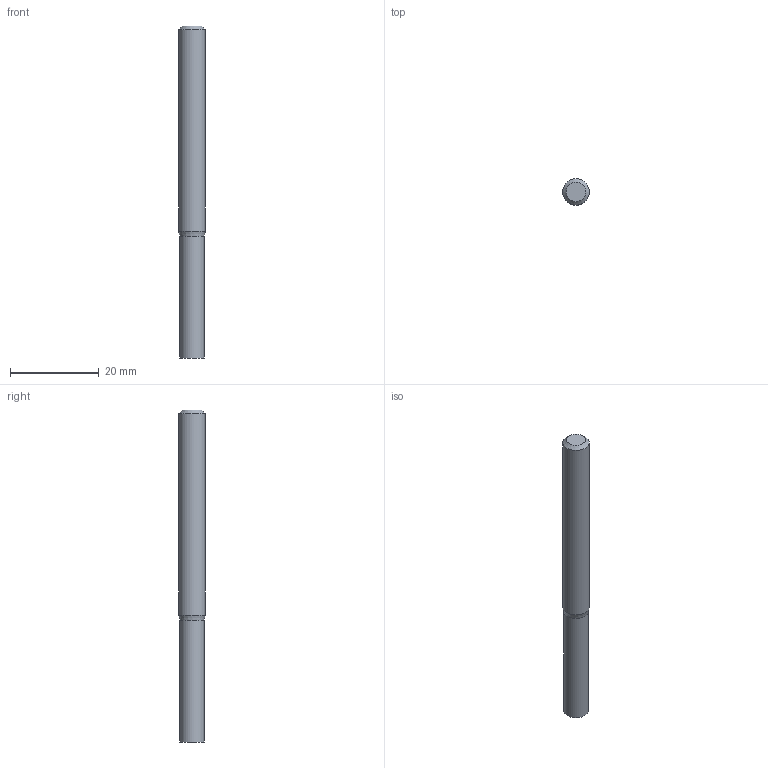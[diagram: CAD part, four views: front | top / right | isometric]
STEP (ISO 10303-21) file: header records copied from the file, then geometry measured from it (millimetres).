
FILE_DESCRIPTION((''),'2;1');
FILE_NAME('C:\Users\nsx150\AppData\Local\Temp\Mastercam 2021\E36A1X9CCL\TEMP.step','2023-04-21T15:28:18',(''),(''),'STEP Write','Mastercam 2021 ... CNC Software, Inc.','');
FILE_SCHEMA(('AUTOMOTIVE_DESIGN'));
Length unit declared in the file: millimetre
Products named in the file (1): None
Bounding box: 6 x 6 x 75 mm (x, y, z)
Volume: 1988.2 mm3; surface area: 1460 mm2
Topology: 2 solids, 2 shells, 8 faces, 10 edges, 6 vertices
Faces by surface type: plane 4, cylinder 2, cone 2
Full cylindrical faces by diameter (mm): 5.5 x1, 6 x1
Entity records: 190 total; most frequent: DIRECTION 32, CARTESIAN_POINT 22, AXIS2_PLACEMENT_3D 16, ORIENTED_EDGE 12, EDGE_LOOP 12, STYLED_ITEM 11, ADVANCED_FACE 8, VERTEX_POINT 6
